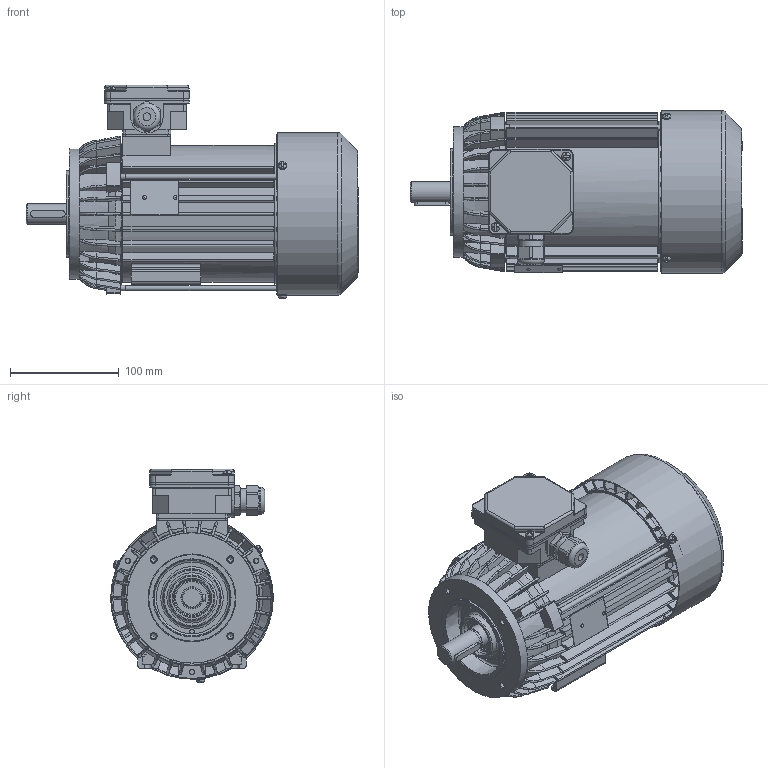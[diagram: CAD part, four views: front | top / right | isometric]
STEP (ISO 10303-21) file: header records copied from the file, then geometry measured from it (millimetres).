
FILE_DESCRIPTION( ( 'Unknown' ), '1' );
FILE_NAME( 'G:/Poczta Tk-1/STP/w.m.80/Sh80/SKh80x-.C2.stp', 'Unknown', ( 'K. Szlosek' ), ( 'BESEL S.A.' ), 'PSStep 17.0.49', 'Unknown', ' ' );
FILE_SCHEMA( ( 'AUTOMOTIVE_DESIGN { 1 0 10303 214 1 1 1 1 }' ) );
Length unit declared in the file: millimetre
Products named in the file (29): skrznka zaciskowa trójfazowa ; K4-2820 Uszczelka nr 2 Sh71,80; Dławnica M20x1,5; K2-0859 Podstawa skrzynki 6-cio zaciskowej; K2-0860 Pokrywka skrzynki zaciskowej; Assem1; K1-1257 Kadłub S(E,M)h80-C i D; K2-2027 Tarcza łożyskowa P S(E,M)h80-.A,C; Wkręt samogwintujący M4x16; Wkręt samogwintujący M4x10; K3-7039 wał standard Sh80-C; K4-4489 Osłona przewietrznika Sh80,90-A,C; K4-2320 Uszczelka nr 1 Sh71,80; Wpust A6x6x32; K2-1715 Przewietrznik; Nitokołek A 2x6; Łożysko 6204; Śruba ściągająca E_M5x168; Tabliczka znamionowa 32x44; K1-1261 Tarcza kołnierzowa B14_2 w.m. 80
Assembly tree (44 placements, depth 3):
  Assem1
    K1-1257 Kadłub S(E,M)h80-C i D
    K2-2027 Tarcza łożyskowa P S(E,M)h80-.A,C
    Wkręt samogwintujący M4x16  x2
    Wkręt samogwintujący M4x10  x3
    K3-7039 wał standard Sh80-C
    K4-4489 Osłona przewietrznika Sh80,90-A,C
    K4-2320 Uszczelka nr 1 Sh71,80
    Wpust A6x6x32
    K2-1715 Przewietrznik
    Nitokołek A 2x6  x2
    Łożysko 6204  x2
    Łożysko 6204  x2
    Łożysko 6204  x2
    Łożysko 6204  x2
    Łożysko 6204  x2
    Łożysko 6204  x2
    Łożysko 6204  x2
    Łożysko 6204  x2
    Łożysko 6204  x2
    Łożysko 6204  x2
    Śruba ściągająca E_M5x168  x3
    Tabliczka znamionowa 32x44
    K1-1261 Tarcza kołnierzowa B14_2 w.m. 80
    skrznka zaciskowa trójfazowa 
      K4-2820 Uszczelka nr 2 Sh71,80
      Dławnica M20x1,5
      K2-0859 Podstawa skrzynki 6-cio zaciskowej
      K2-0860 Pokrywka skrzynki zaciskowej
Bounding box: 305.8 x 149.88 x 196.68 mm (x, y, z)
Volume: 878630.6 mm3; surface area: 578830.2 mm2
Topology: 43 solids, 59 shells, 2572 faces, 7283 edges, 4672 vertices
Faces by surface type: plane 1229, cylinder 783, bspline 285, cone 128, torus 113, sphere 34
Full cylindrical faces by diameter (mm): 2 x2, 2.4 x2, 3 x1, 3.7 x11, 4 x6, 4.2 x3, 4.5 x1, 4.6 x3, 4.8 x4, 5 x11, 5.5 x3, 7 x1, 8 x9, 18.376 x1, 18.38 x1, 18.6 x1, 19 x1, 19.3 x1, 19.5 x2, 19.9 x1, 20 x5, 20.3 x2, 20.4 x4, 22.3 x1, 25 x1, 25.5 x1, 25.65 x1, 26 x3, 26.05 x1, 28.802 x4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
Entity records: 122614 total; most frequent: CARTESIAN_POINT 44541, ORIENTED_EDGE 12840, DIRECTION 11796, EDGE_CURVE 6420, AXIS2_PLACEMENT_3D 4314, VERTEX_POINT 4303, LINE 3168, VECTOR 3168
